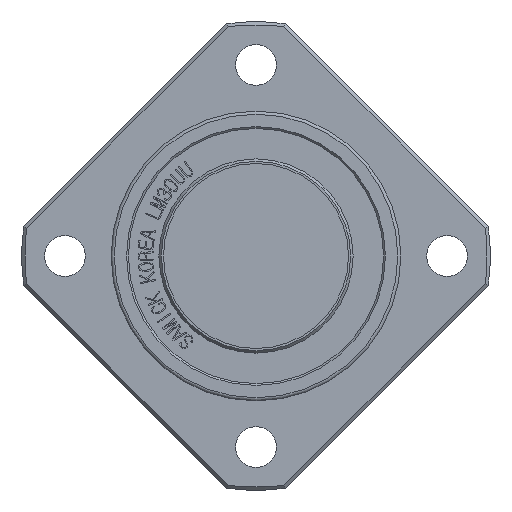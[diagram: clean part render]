
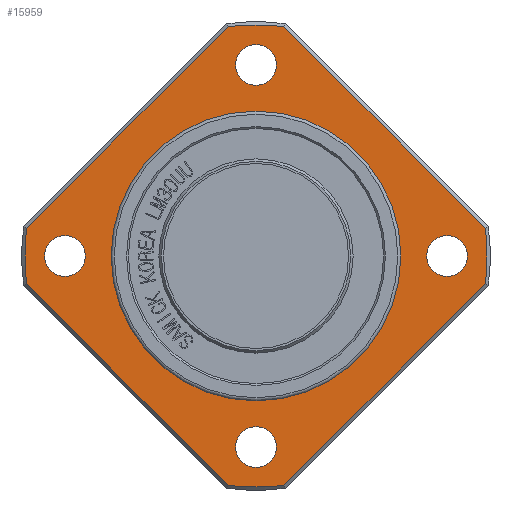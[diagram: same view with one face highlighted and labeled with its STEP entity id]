
A CAD part, front view. The second image highlights one B-rep face of the part: STEP entity #15959.
In plain terms, the highlighted planar face has unit normal (0, -1, 0).
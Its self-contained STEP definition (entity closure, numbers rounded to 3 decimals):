
#2299=FACE_BOUND('',#3377,.T.);
#2300=FACE_BOUND('',#3378,.T.);
#2301=FACE_BOUND('',#3379,.T.);
#2302=FACE_BOUND('',#3380,.T.);
#2303=FACE_BOUND('',#3381,.T.);
#2370=CIRCLE('',#16845,37.5);
#2373=CIRCLE('',#16853,37.5);
#2375=CIRCLE('',#16861,37.5);
#2377=CIRCLE('',#16867,37.5);
#2383=CIRCLE('',#16881,3.3);
#2387=CIRCLE('',#16888,3.3);
#2391=CIRCLE('',#16895,3.3);
#2395=CIRCLE('',#16902,3.3);
#2396=CIRCLE('',#16904,23.5);
#2397=CIRCLE('',#16905,23.5);
#2485=FACE_OUTER_BOUND('',#3376,.T.);
#3376=EDGE_LOOP('',(#10894,#10895,#10896,#10897,#10898,#10899,#10900,#10901));
#3377=EDGE_LOOP('',(#10902));
#3378=EDGE_LOOP('',(#10903));
#3379=EDGE_LOOP('',(#10904));
#3380=EDGE_LOOP('',(#10905));
#3381=EDGE_LOOP('',(#10906,#10907));
#4282=LINE('',#19086,#5432);
#4287=LINE('',#19117,#5437);
#4294=LINE('',#19160,#5444);
#4296=LINE('',#19171,#5446);
#5432=VECTOR('',#17218,10.);
#5437=VECTOR('',#17239,10.);
#5444=VECTOR('',#17264,10.);
#5446=VECTOR('',#17274,10.);
#6613=VERTEX_POINT('',#19075);
#6616=VERTEX_POINT('',#19082);
#6618=VERTEX_POINT('',#19090);
#6622=VERTEX_POINT('',#19113);
#6624=VERTEX_POINT('',#19121);
#6630=VERTEX_POINT('',#19152);
#6631=VERTEX_POINT('',#19156);
#6632=VERTEX_POINT('',#19162);
#6637=VERTEX_POINT('',#19196);
#6641=VERTEX_POINT('',#19209);
#6645=VERTEX_POINT('',#19222);
#6649=VERTEX_POINT('',#19235);
#6650=VERTEX_POINT('',#19239);
#6651=VERTEX_POINT('',#19240);
#8274=EDGE_CURVE('',#6616,#6613,#4282,.T.);
#8277=EDGE_CURVE('',#6616,#6618,#2370,.T.);
#8286=EDGE_CURVE('',#6622,#6618,#4287,.T.);
#8289=EDGE_CURVE('',#6622,#6624,#2373,.T.);
#8302=EDGE_CURVE('',#6631,#6630,#4294,.T.);
#8303=EDGE_CURVE('',#6632,#6630,#2375,.T.);
#8307=EDGE_CURVE('',#6632,#6624,#4296,.T.);
#8311=EDGE_CURVE('',#6631,#6613,#2377,.T.);
#8319=EDGE_CURVE('',#6637,#6637,#2383,.T.);
#8325=EDGE_CURVE('',#6641,#6641,#2387,.T.);
#8331=EDGE_CURVE('',#6645,#6645,#2391,.T.);
#8337=EDGE_CURVE('',#6649,#6649,#2395,.T.);
#8338=EDGE_CURVE('',#6650,#6651,#2396,.T.);
#8339=EDGE_CURVE('',#6651,#6650,#2397,.T.);
#10894=ORIENTED_EDGE('',*,*,#8274,.F.);
#10895=ORIENTED_EDGE('',*,*,#8277,.T.);
#10896=ORIENTED_EDGE('',*,*,#8286,.F.);
#10897=ORIENTED_EDGE('',*,*,#8289,.T.);
#10898=ORIENTED_EDGE('',*,*,#8307,.F.);
#10899=ORIENTED_EDGE('',*,*,#8303,.T.);
#10900=ORIENTED_EDGE('',*,*,#8302,.F.);
#10901=ORIENTED_EDGE('',*,*,#8311,.T.);
#10902=ORIENTED_EDGE('',*,*,#8319,.T.);
#10903=ORIENTED_EDGE('',*,*,#8325,.T.);
#10904=ORIENTED_EDGE('',*,*,#8331,.T.);
#10905=ORIENTED_EDGE('',*,*,#8337,.T.);
#10906=ORIENTED_EDGE('',*,*,#8338,.F.);
#10907=ORIENTED_EDGE('',*,*,#8339,.F.);
#15705=PLANE('',#16903);
#15959=ADVANCED_FACE('',(#2485,#2299,#2300,#2301,#2302,#2303),#15705,.T.);
#16845=AXIS2_PLACEMENT_3D('',#19094,#17223,#17224);
#16853=AXIS2_PLACEMENT_3D('',#19125,#17244,#17245);
#16861=AXIS2_PLACEMENT_3D('',#19163,#17267,#17268);
#16867=AXIS2_PLACEMENT_3D('',#19178,#17284,#17285);
#16881=AXIS2_PLACEMENT_3D('',#19198,#17314,#17315);
#16888=AXIS2_PLACEMENT_3D('',#19211,#17330,#17331);
#16895=AXIS2_PLACEMENT_3D('',#19224,#17346,#17347);
#16902=AXIS2_PLACEMENT_3D('',#19237,#17362,#17363);
#16903=AXIS2_PLACEMENT_3D('',#19238,#17364,#17365);
#16904=AXIS2_PLACEMENT_3D('',#19241,#17366,#17367);
#16905=AXIS2_PLACEMENT_3D('',#19242,#17368,#17369);
#17218=DIRECTION('',(-0.707,0.,0.707));
#17223=DIRECTION('center_axis',(0.,-1.,0.));
#17224=DIRECTION('ref_axis',(1.,0.,0.));
#17239=DIRECTION('',(-0.707,0.,-0.707));
#17244=DIRECTION('center_axis',(0.,-1.,0.));
#17245=DIRECTION('ref_axis',(1.,0.,0.));
#17264=DIRECTION('',(0.707,0.,0.707));
#17267=DIRECTION('center_axis',(0.,-1.,0.));
#17268=DIRECTION('ref_axis',(1.,0.,0.));
#17274=DIRECTION('',(0.707,0.,-0.707));
#17284=DIRECTION('center_axis',(0.,-1.,0.));
#17285=DIRECTION('ref_axis',(1.,0.,0.));
#17314=DIRECTION('center_axis',(0.,1.,0.));
#17315=DIRECTION('ref_axis',(0.,0.,
1.));
#17330=DIRECTION('center_axis',(0.,1.,0.));
#17331=DIRECTION('ref_axis',(-1.,0.,0.));
#17346=DIRECTION('center_axis',(0.,1.,0.));
#17347=DIRECTION('ref_axis',(0.,0.,
-1.));
#17362=DIRECTION('center_axis',(0.,1.,0.));
#17363=DIRECTION('ref_axis',(1.,0.,0.));
#17364=DIRECTION('center_axis',(0.,-1.,0.));
#17365=DIRECTION('ref_axis',(0.,0.,-1.));
#17366=DIRECTION('center_axis',(0.,-1.,0.));
#17367=DIRECTION('ref_axis',(1.,0.,0.));
#17368=DIRECTION('center_axis',(0.,-1.,0.));
#17369=DIRECTION('ref_axis',(1.,0.,0.));
#19075=CARTESIAN_POINT('',(-37.23,24.,-4.489));
#19082=CARTESIAN_POINT('',(-4.489,24.,-37.23));
#19086=CARTESIAN_POINT('',(-4.378,24.,-37.341));
#19090=CARTESIAN_POINT('',(4.489,24.,-37.23));
#19094=CARTESIAN_POINT('Origin',(0.,24.,0.));
#19113=CARTESIAN_POINT('',(37.23,24.,-4.489));
#19117=CARTESIAN_POINT('',(37.341,24.,-4.378));
#19121=CARTESIAN_POINT('',(37.23,24.,4.489));
#19125=CARTESIAN_POINT('Origin',(0.,24.,0.));
#19152=CARTESIAN_POINT('',(-4.489,24.,37.23));
#19156=CARTESIAN_POINT('',(-37.23,24.,4.489));
#19160=CARTESIAN_POINT('',(-25.591,24.,16.128));
#19162=CARTESIAN_POINT('',(4.489,24.,37.23));
#19163=CARTESIAN_POINT('Origin',(0.,24.,0.));
#19171=CARTESIAN_POINT('',(16.128,24.,25.591));
#19178=CARTESIAN_POINT('Origin',(0.,24.,0.));
#19196=CARTESIAN_POINT('',(0.,24.,27.7));
#19198=CARTESIAN_POINT('Origin',(0.,24.,31.));
#19209=CARTESIAN_POINT('',(-27.7,24.,0.));
#19211=CARTESIAN_POINT('Origin',(-31.,24.,0.));
#19222=CARTESIAN_POINT('',(0.,24.,-27.7));
#19224=CARTESIAN_POINT('Origin',(0.,24.,-31.));
#19235=CARTESIAN_POINT('',(27.7,24.,0.));
#19237=CARTESIAN_POINT('Origin',(31.,24.,0.));
#19238=CARTESIAN_POINT('Origin',(23.5,24.,0.));
#19239=CARTESIAN_POINT('',(23.5,24.,0.));
#19240=CARTESIAN_POINT('',(-23.5,24.,0.));
#19241=CARTESIAN_POINT('Origin',(0.,24.,0.));
#19242=CARTESIAN_POINT('Origin',(0.,24.,0.));
